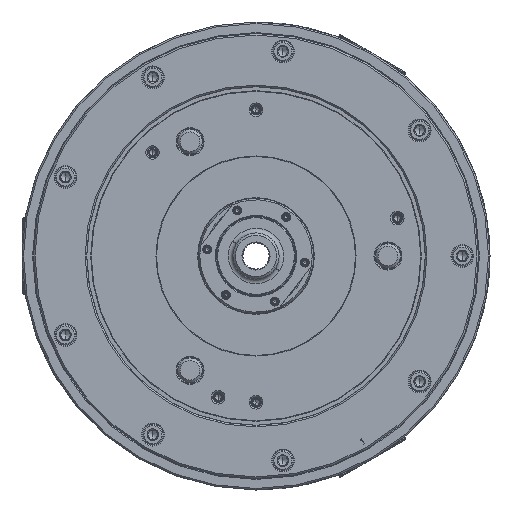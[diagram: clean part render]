
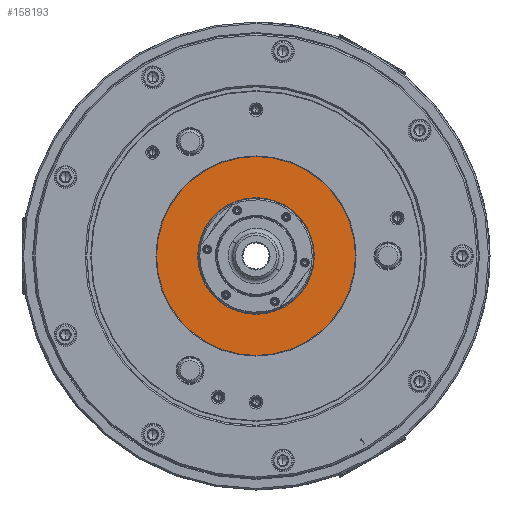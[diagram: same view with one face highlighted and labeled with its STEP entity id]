
A CAD part, left-side view. The second image highlights one B-rep face of the part: STEP entity #158193.
In plain terms, the highlighted planar face has unit normal (-1, 0, 0) as drawn and (0, 0, -1) by its records, which use the part's own axes.
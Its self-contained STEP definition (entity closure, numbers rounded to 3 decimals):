
#1697 = DIRECTION ( 'NONE',  ( 1., 0., 0. ) ) ;
#5665 = DIRECTION ( 'NONE',  ( 1., 0., 0. ) ) ;
#11215 = ORIENTED_EDGE ( 'NONE', *, *, #70034, .T. ) ;
#11425 = AXIS2_PLACEMENT_3D ( 'NONE', #117539, #14237, #44564 ) ;
#11730 = AXIS2_PLACEMENT_3D ( 'NONE', #181042, #20827, #5665 ) ;
#14237 = DIRECTION ( 'NONE',  ( 0., 0., 1. ) ) ;
#14735 = VERTEX_POINT ( 'NONE', #22992 ) ;
#19542 = VERTEX_POINT ( 'NONE', #168716 ) ;
#20827 = DIRECTION ( 'NONE',  ( 0., 0., 1. ) ) ;
#22992 = CARTESIAN_POINT ( 'NONE',  ( 37.9, 0., -126.8 ) ) ;
#26227 = ORIENTED_EDGE ( 'NONE', *, *, #51171, .T. ) ;
#26758 = ORIENTED_EDGE ( 'NONE', *, *, #92904, .F. ) ;
#27055 = CARTESIAN_POINT ( 'NONE',  ( 64.616, 0., -126.8 ) ) ;
#27985 = CARTESIAN_POINT ( 'NONE',  ( 0., 0., -126.8 ) ) ;
#35979 = EDGE_LOOP ( 'NONE', ( #26758, #36492 ) ) ;
#36492 = ORIENTED_EDGE ( 'NONE', *, *, #66577, .F. ) ;
#44319 = VERTEX_POINT ( 'NONE', #27055 ) ;
#44564 = DIRECTION ( 'NONE',  ( 1., 0., 0. ) ) ;
#48112 = CIRCLE ( 'NONE', #11730, 37.9 ) ;
#51171 = EDGE_CURVE ( 'NONE', #14735, #19542, #141601, .T. ) ;
#58561 = FACE_OUTER_BOUND ( 'NONE', #35979, .T. ) ;
#64473 = CARTESIAN_POINT ( 'NONE',  ( -64.616, 0., -126.8 ) ) ;
#66577 = EDGE_CURVE ( 'NONE', #44319, #157261, #150210, .T. ) ;
#69764 = AXIS2_PLACEMENT_3D ( 'NONE', #159638, #160560, #84735 ) ;
#70034 = EDGE_CURVE ( 'NONE', #19542, #14735, #48112, .T. ) ;
#72783 = FACE_BOUND ( 'NONE', #153694, .T. ) ;
#80620 = AXIS2_PLACEMENT_3D ( 'NONE', #27985, #173058, #117070 ) ;
#84735 = DIRECTION ( 'NONE',  ( 1., 0., 0. ) ) ;
#87930 = DIRECTION ( 'NONE',  ( 0., 0., 1. ) ) ;
#92904 = EDGE_CURVE ( 'NONE', #157261, #44319, #139451, .T. ) ;
#99552 = AXIS2_PLACEMENT_3D ( 'NONE', #130627, #87930, #1697 ) ;
#117070 = DIRECTION ( 'NONE',  ( 1., 0., 0. ) ) ;
#117539 = CARTESIAN_POINT ( 'NONE',  ( 0., 0., -126.8 ) ) ;
#130627 = CARTESIAN_POINT ( 'NONE',  ( 0., -65., -126.8 ) ) ;
#139451 = CIRCLE ( 'NONE', #69764, 64.616 ) ;
#141601 = CIRCLE ( 'NONE', #11425, 37.9 ) ;
#150210 = CIRCLE ( 'NONE', #80620, 64.616 ) ;
#153694 = EDGE_LOOP ( 'NONE', ( #11215, #26227 ) ) ;
#157261 = VERTEX_POINT ( 'NONE', #64473 ) ;
#158193 = ADVANCED_FACE ( 'NONE', ( #72783, #58561 ), #162827, .F. ) ;
#159638 = CARTESIAN_POINT ( 'NONE',  ( 0., 0., -126.8 ) ) ;
#160560 = DIRECTION ( 'NONE',  ( 0., 0., 1. ) ) ;
#162827 = PLANE ( 'NONE',  #99552 ) ;
#168716 = CARTESIAN_POINT ( 'NONE',  ( -37.9, 0., -126.8 ) ) ;
#173058 = DIRECTION ( 'NONE',  ( 0., 0., 1. ) ) ;
#181042 = CARTESIAN_POINT ( 'NONE',  ( 0., 0., -126.8 ) ) ;
